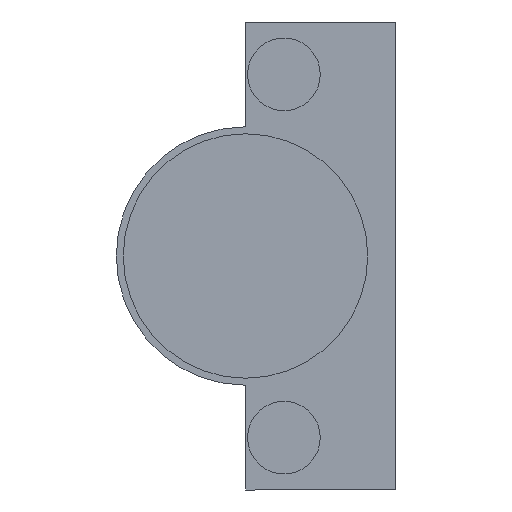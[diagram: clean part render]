
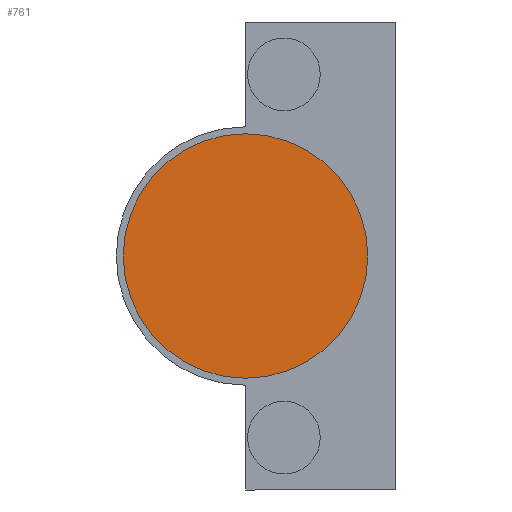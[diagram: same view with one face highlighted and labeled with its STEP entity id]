
A CAD part, front view. The second image highlights one B-rep face of the part: STEP entity #761.
In plain terms, the highlighted planar face has unit normal (0, -1, 0).
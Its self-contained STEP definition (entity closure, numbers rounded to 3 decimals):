
#27 = VERTEX_POINT ( 'NONE', #122 ) ;
#33 = VERTEX_POINT ( 'NONE', #127 ) ;
#122 = CARTESIAN_POINT ( 'NONE',  ( 29.5, -12.6, 0. ) ) ;
#127 = CARTESIAN_POINT ( 'NONE',  ( -5.5, -12.6, 0. ) ) ;
#270 = CARTESIAN_POINT ( 'NONE',  ( 12., -12.6, 0. ) ) ;
#271 = PLANE ( 'NONE',  #920 ) ;
#273 = DIRECTION ( 'NONE',  ( 0., -1., 0. ) ) ;
#274 = DIRECTION ( 'NONE',  ( 1., 0., 0. ) ) ;
#533 = CARTESIAN_POINT ( 'NONE',  ( 12., -12.6, 0. ) ) ;
#540 = DIRECTION ( 'NONE',  ( 0., -1., 0. ) ) ;
#541 = DIRECTION ( 'NONE',  ( 1., 0., 0. ) ) ;
#649 = CARTESIAN_POINT ( 'NONE',  ( 12., -12.6, 0. ) ) ;
#651 = DIRECTION ( 'NONE',  ( 0., -1., 0. ) ) ;
#652 = DIRECTION ( 'NONE',  ( 1., 0., 0. ) ) ;
#761 = ADVANCED_FACE ( 'NONE', ( #1423 ), #271, .T. ) ;
#873 = EDGE_CURVE ( 'NONE', #27, #33, #1576, .T. ) ;
#920 = AXIS2_PLACEMENT_3D ( 'NONE', #270, #273, #274 ) ;
#981 = EDGE_CURVE ( 'NONE', #33, #27, #1662, .T. ) ;
#1036 = AXIS2_PLACEMENT_3D ( 'NONE', #533, #540, #541 ) ;
#1040 = AXIS2_PLACEMENT_3D ( 'NONE', #649, #651, #652 ) ;
#1089 = EDGE_LOOP ( 'NONE', ( #1256, #1257 ) ) ;
#1256 = ORIENTED_EDGE ( 'NONE', *, *, #981, .T. ) ;
#1257 = ORIENTED_EDGE ( 'NONE', *, *, #873, .T. ) ;
#1423 = FACE_OUTER_BOUND ( 'NONE', #1089, .T. ) ;
#1576 = CIRCLE ( 'NONE', #1036, 17.5 ) ;
#1662 = CIRCLE ( 'NONE', #1040, 17.5 ) ;
